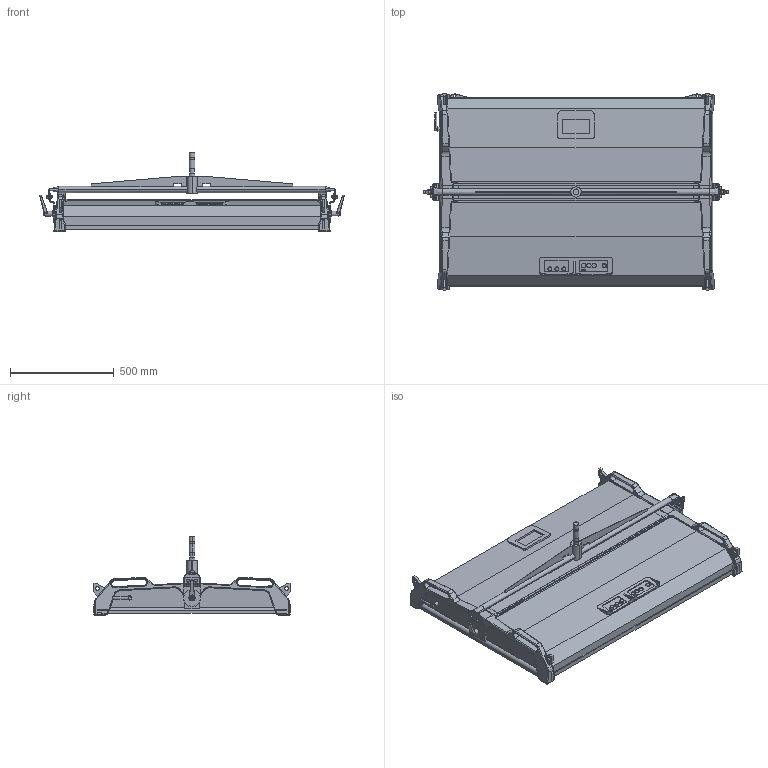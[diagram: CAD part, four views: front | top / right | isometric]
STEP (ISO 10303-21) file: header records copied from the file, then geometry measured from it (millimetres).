
FILE_DESCRIPTION (( 'STEP AP214' ), '1' );
FILE_NAME ('S360-C_short yoke_3D.STEP', '2018-03-14T10:28:04', ( '' ), ( '' ), 'SwSTEP 2.0', 'SolidWorks 2016', '' );
FILE_SCHEMA (( 'AUTOMOTIVE_DESIGN' ));
Length unit declared in the file: millimetre
Products named in the file (3): S360_Buegel kurz_3D; S360-C_3D; S360-C_short yoke_3D
Assembly tree (2 placements, depth 2):
  S360-C_short yoke_3D
    S360-C_3D
    S360_Buegel kurz_3D
Bounding box: 1471.44 x 947 x 383.8 mm (x, y, z)
Volume: 141375811.4 mm3; surface area: 3403168.6 mm2
Topology: 2 solids, 2 shells, 888 faces, 2246 edges, 1396 vertices
Faces by surface type: plane 422, cylinder 316, bspline 100, cone 22, sphere 16, torus 12
Entity records: 35778 total; most frequent: CARTESIAN_POINT 9373, ORIENTED_EDGE 4460, DIRECTION 4116, EDGE_CURVE 2230, AXIS2_PLACEMENT_3D 1403, VERTEX_POINT 1396, VECTOR 1310, LINE 1310
